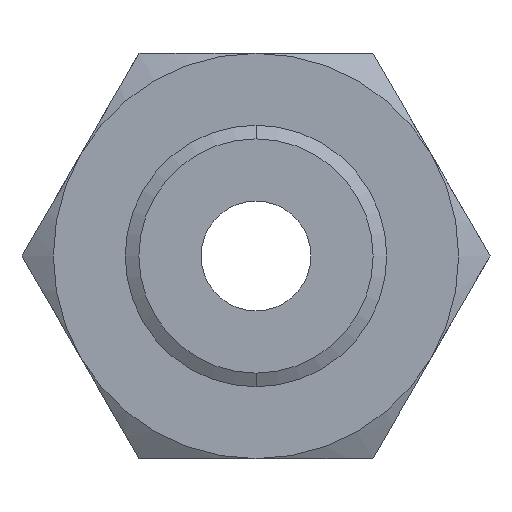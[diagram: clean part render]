
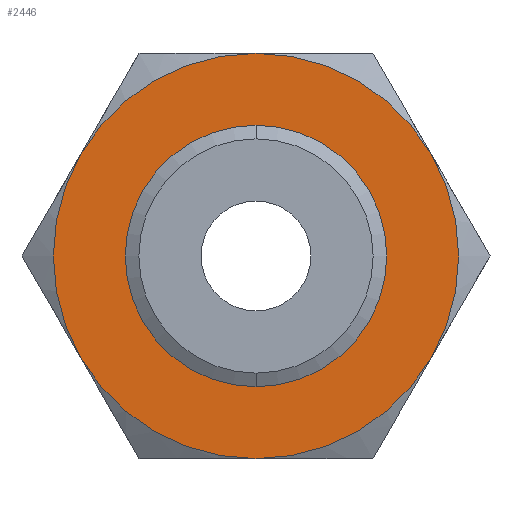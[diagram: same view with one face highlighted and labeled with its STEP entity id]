
A CAD part, front view. The second image highlights one B-rep face of the part: STEP entity #2446.
In plain terms, the highlighted planar face has unit normal (0, -1, 0).
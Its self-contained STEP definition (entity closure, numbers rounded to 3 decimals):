
#84 = EDGE_LOOP ( 'NONE', ( #2444, #1975, #1974, #2001, #2002, #1988 ) ) ;
#204 = DIRECTION ( 'NONE',  ( 0., 0., 1. ) ) ;
#205 = DIRECTION ( 'NONE',  ( 0., 1., 0. ) ) ;
#206 = CARTESIAN_POINT ( 'NONE',  ( 44.745, 0., -77.5 ) ) ;
#207 = AXIS2_PLACEMENT_3D ( 'NONE', #206, #205, #204 ) ;
#208 = PLANE ( 'NONE',  #207 ) ;
#209 = FACE_BOUND ( 'NONE', #1972, .T. ) ;
#210 = FACE_OUTER_BOUND ( 'NONE', #84, .T. ) ;
#211 = DIRECTION ( 'NONE',  ( 0., 0., 1. ) ) ;
#212 = DIRECTION ( 'NONE',  ( 0., 1., 0. ) ) ;
#213 = CARTESIAN_POINT ( 'NONE',  ( 0., 0., 0. ) ) ;
#214 = AXIS2_PLACEMENT_3D ( 'NONE', #213, #212, #211 ) ;
#215 = CIRCLE ( 'NONE', #214, 77.5 ) ;
#900 = CARTESIAN_POINT ( 'NONE',  ( 0., 0., 77.5 ) ) ;
#948 = DIRECTION ( 'NONE',  ( 0., 0., 1. ) ) ;
#949 = DIRECTION ( 'NONE',  ( 0., 1., 0. ) ) ;
#950 = CARTESIAN_POINT ( 'NONE',  ( 0., 0., 0. ) ) ;
#951 = AXIS2_PLACEMENT_3D ( 'NONE', #950, #949, #948 ) ;
#952 = CIRCLE ( 'NONE', #951, 77.5 ) ;
#954 = CARTESIAN_POINT ( 'NONE',  ( -67.117, 0., -38.75 ) ) ;
#955 = CARTESIAN_POINT ( 'NONE',  ( 67.117, 0., -38.75 ) ) ;
#956 = DIRECTION ( 'NONE',  ( 0., 0., -1. ) ) ;
#957 = DIRECTION ( 'NONE',  ( 0., -1., 0. ) ) ;
#958 = AXIS2_PLACEMENT_3D ( 'NONE', #965, #957, #956 ) ;
#959 = CIRCLE ( 'NONE', #958, 44.804 ) ;
#960 = DIRECTION ( 'NONE',  ( 0., 0., 1. ) ) ;
#961 = DIRECTION ( 'NONE',  ( 0., 1., 0. ) ) ;
#962 = CARTESIAN_POINT ( 'NONE',  ( 0., 0., 0. ) ) ;
#963 = AXIS2_PLACEMENT_3D ( 'NONE', #962, #961, #960 ) ;
#964 = CIRCLE ( 'NONE', #963, 77.5 ) ;
#965 = CARTESIAN_POINT ( 'NONE',  ( 0., 0., 0. ) ) ;
#966 = CARTESIAN_POINT ( 'NONE',  ( 67.117, 0., 38.75 ) ) ;
#967 = CARTESIAN_POINT ( 'NONE',  ( -67.117, 0., 38.75 ) ) ;
#968 = DIRECTION ( 'NONE',  ( 0., 0., 1. ) ) ;
#969 = DIRECTION ( 'NONE',  ( 0., 1., 0. ) ) ;
#970 = CARTESIAN_POINT ( 'NONE',  ( 0., 0., 0. ) ) ;
#971 = AXIS2_PLACEMENT_3D ( 'NONE', #970, #969, #968 ) ;
#974 = CIRCLE ( 'NONE', #971, 77.5 ) ;
#982 = DIRECTION ( 'NONE',  ( 0., 0., 1. ) ) ;
#983 = DIRECTION ( 'NONE',  ( 0., 1., 0. ) ) ;
#984 = CARTESIAN_POINT ( 'NONE',  ( 0., 0., 0. ) ) ;
#985 = AXIS2_PLACEMENT_3D ( 'NONE', #984, #983, #982 ) ;
#986 = CIRCLE ( 'NONE', #985, 77.5 ) ;
#987 = DIRECTION ( 'NONE',  ( 0., 0., 1. ) ) ;
#988 = DIRECTION ( 'NONE',  ( 0., 1., 0. ) ) ;
#989 = CARTESIAN_POINT ( 'NONE',  ( 0., 0., 0. ) ) ;
#990 = AXIS2_PLACEMENT_3D ( 'NONE', #989, #988, #987 ) ;
#991 = CIRCLE ( 'NONE', #990, 77.5 ) ;
#992 = CARTESIAN_POINT ( 'NONE',  ( 0., 0., -77.5 ) ) ;
#1797 = DIRECTION ( 'NONE',  ( 0., 0., -1. ) ) ;
#1798 = DIRECTION ( 'NONE',  ( 0., -1., 0. ) ) ;
#1799 = CARTESIAN_POINT ( 'NONE',  ( 0., 0., 0. ) ) ;
#1800 = AXIS2_PLACEMENT_3D ( 'NONE', #1799, #1798, #1797 ) ;
#1805 = CIRCLE ( 'NONE', #1800, 44.804 ) ;
#1814 = CARTESIAN_POINT ( 'NONE',  ( 0., 0., 44.804 ) ) ;
#1819 = CARTESIAN_POINT ( 'NONE',  ( 0., 0., -44.804 ) ) ;
#1935 = VERTEX_POINT ( 'NONE', #900 ) ;
#1969 = ORIENTED_EDGE ( 'NONE', *, *, #2392, .F. ) ;
#1970 = ORIENTED_EDGE ( 'NONE', *, *, #1979, .F. ) ;
#1971 = EDGE_CURVE ( 'NONE', #1976, #1986, #974, .T. ) ;
#1972 = EDGE_LOOP ( 'NONE', ( #1969, #1970 ) ) ;
#1973 = VERTEX_POINT ( 'NONE', #967 ) ;
#1974 = ORIENTED_EDGE ( 'NONE', *, *, #1990, .F. ) ;
#1975 = ORIENTED_EDGE ( 'NONE', *, *, #1977, .F. ) ;
#1976 = VERTEX_POINT ( 'NONE', #966 ) ;
#1977 = EDGE_CURVE ( 'NONE', #1973, #1935, #964, .T. ) ;
#1979 = EDGE_CURVE ( 'NONE', #2383, #2381, #959, .T. ) ;
#1986 = VERTEX_POINT ( 'NONE', #955 ) ;
#1987 = VERTEX_POINT ( 'NONE', #954 ) ;
#1988 = ORIENTED_EDGE ( 'NONE', *, *, #1971, .F. ) ;
#1990 = EDGE_CURVE ( 'NONE', #1987, #1973, #952, .T. ) ;
#2001 = ORIENTED_EDGE ( 'NONE', *, *, #2004, .F. ) ;
#2002 = ORIENTED_EDGE ( 'NONE', *, *, #2005, .F. ) ;
#2003 = VERTEX_POINT ( 'NONE', #992 ) ;
#2004 = EDGE_CURVE ( 'NONE', #2003, #1987, #991, .T. ) ;
#2005 = EDGE_CURVE ( 'NONE', #1986, #2003, #986, .T. ) ;
#2381 = VERTEX_POINT ( 'NONE', #1819 ) ;
#2383 = VERTEX_POINT ( 'NONE', #1814 ) ;
#2392 = EDGE_CURVE ( 'NONE', #2381, #2383, #1805, .T. ) ;
#2444 = ORIENTED_EDGE ( 'NONE', *, *, #2445, .F. ) ;
#2445 = EDGE_CURVE ( 'NONE', #1935, #1976, #215, .T. ) ;
#2446 = ADVANCED_FACE ( 'NONE', ( #210, #209 ), #208, .F. ) ;
